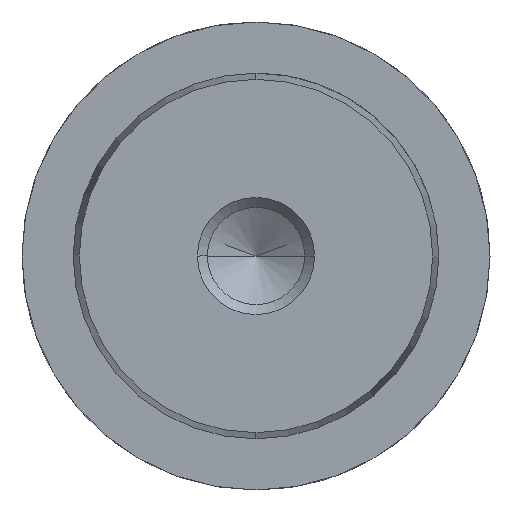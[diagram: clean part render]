
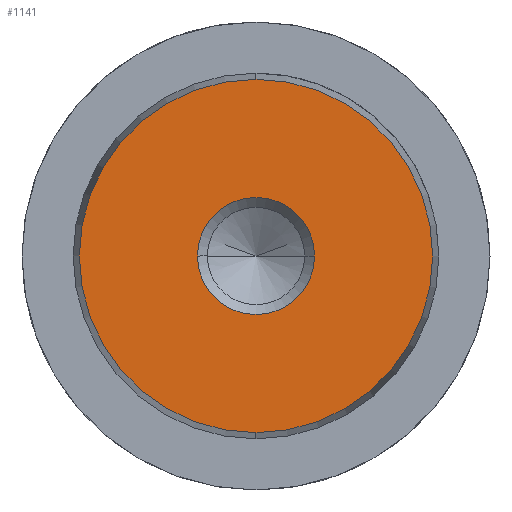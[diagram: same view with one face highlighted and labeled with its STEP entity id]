
A CAD part, left-side view. The second image highlights one B-rep face of the part: STEP entity #1141.
In plain terms, the highlighted planar face has unit normal (-1, 0, 0).
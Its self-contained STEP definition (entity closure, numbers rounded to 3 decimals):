
#1055=CARTESIAN_POINT('Vertex',(0.,0.,-12.078)) ;
#1058=CARTESIAN_POINT('Axis2P3D Location',(0.,0.,0.)) ;
#1062=CARTESIAN_POINT('Vertex',(0.,12.078,0.)) ;
#1065=CARTESIAN_POINT('Axis2P3D Location',(0.,0.,0.)) ;
#1069=CARTESIAN_POINT('Vertex',(0.,0.,12.078)) ;
#1091=CARTESIAN_POINT('Axis2P3D Location',(0.,0.,0.)) ;
#1095=CARTESIAN_POINT('Vertex',(0.,-12.078,0.)) ;
#1098=CARTESIAN_POINT('Axis2P3D Location',(0.,0.,0.)) ;
#1112=CARTESIAN_POINT('Axis2P3D Location',(0.,0.,0.)) ;
#1123=CARTESIAN_POINT('Axis2P3D Location',(0.,0.,0.)) ;
#1127=CARTESIAN_POINT('Vertex',(0.,4.,0.)) ;
#1129=CARTESIAN_POINT('Vertex',(0.,-4.,0.)) ;
#1132=CARTESIAN_POINT('Axis2P3D Location',(0.,0.,0.)) ;
#1059=DIRECTION('Axis2P3D Direction',(1.,-0.,0.)) ;
#1066=DIRECTION('Axis2P3D Direction',(1.,-0.,0.)) ;
#1092=DIRECTION('Axis2P3D Direction',(1.,0.,-0.)) ;
#1099=DIRECTION('Axis2P3D Direction',(1.,0.,-0.)) ;
#1113=DIRECTION('Axis2P3D Direction',(1.,0.,-0.)) ;
#1114=DIRECTION('Axis2P3D XDirection',(-0.,0.,-1.)) ;
#1124=DIRECTION('Axis2P3D Direction',(1.,0.,-0.)) ;
#1133=DIRECTION('Axis2P3D Direction',(1.,0.,-0.)) ;
#1060=AXIS2_PLACEMENT_3D('Circle Axis2P3D',#1058,#1059,$) ;
#1067=AXIS2_PLACEMENT_3D('Circle Axis2P3D',#1065,#1066,$) ;
#1093=AXIS2_PLACEMENT_3D('Circle Axis2P3D',#1091,#1092,$) ;
#1100=AXIS2_PLACEMENT_3D('Circle Axis2P3D',#1098,#1099,$) ;
#1115=AXIS2_PLACEMENT_3D('Plane Axis2P3D',#1112,#1113,#1114) ;
#1125=AXIS2_PLACEMENT_3D('Circle Axis2P3D',#1123,#1124,$) ;
#1134=AXIS2_PLACEMENT_3D('Circle Axis2P3D',#1132,#1133,$) ;
#1118=ORIENTED_EDGE('',*,*,#1064,.F.) ;
#1119=ORIENTED_EDGE('',*,*,#1102,.F.) ;
#1120=ORIENTED_EDGE('',*,*,#1097,.F.) ;
#1121=ORIENTED_EDGE('',*,*,#1071,.F.) ;
#1138=ORIENTED_EDGE('',*,*,#1131,.T.) ;
#1139=ORIENTED_EDGE('',*,*,#1136,.T.) ;
#1140=FACE_BOUND('',#1137,.T.) ;
#1141=ADVANCED_FACE('719-25x160',(#1122,#1140),#1116,.F.) ;
#1061=CIRCLE('generated circle',#1060,12.078) ;
#1068=CIRCLE('generated circle',#1067,12.078) ;
#1094=CIRCLE('generated circle',#1093,12.078) ;
#1101=CIRCLE('generated circle',#1100,12.078) ;
#1126=CIRCLE('generated circle',#1125,4.) ;
#1135=CIRCLE('generated circle',#1134,4.) ;
#1064=EDGE_CURVE('',#1056,#1063,#1061,.T.) ;
#1071=EDGE_CURVE('',#1063,#1070,#1068,.T.) ;
#1097=EDGE_CURVE('',#1070,#1096,#1094,.T.) ;
#1102=EDGE_CURVE('',#1096,#1056,#1101,.T.) ;
#1131=EDGE_CURVE('',#1128,#1130,#1126,.T.) ;
#1136=EDGE_CURVE('',#1130,#1128,#1135,.T.) ;
#1117=EDGE_LOOP('',(#1118,#1119,#1120,#1121)) ;
#1137=EDGE_LOOP('',(#1138,#1139)) ;
#1122=FACE_OUTER_BOUND('',#1117,.T.) ;
#1116=PLANE('Plane',#1115) ;
#1056=VERTEX_POINT('',#1055) ;
#1063=VERTEX_POINT('',#1062) ;
#1070=VERTEX_POINT('',#1069) ;
#1096=VERTEX_POINT('',#1095) ;
#1128=VERTEX_POINT('',#1127) ;
#1130=VERTEX_POINT('',#1129) ;
